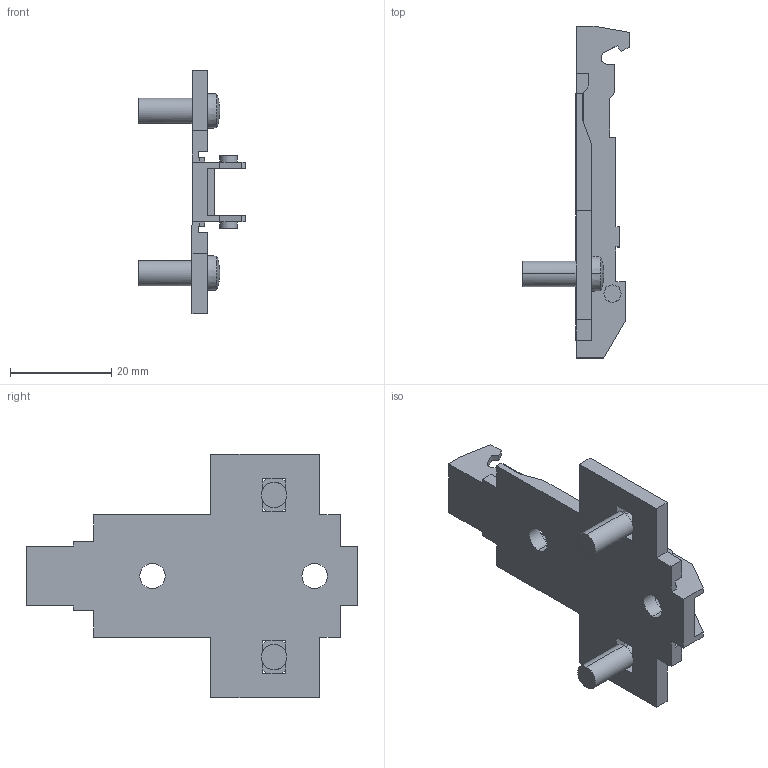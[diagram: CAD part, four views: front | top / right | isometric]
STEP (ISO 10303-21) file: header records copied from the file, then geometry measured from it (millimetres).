
FILE_DESCRIPTION (( 'STEP AP214' ), '1' );
FILE_NAME ('1D_Kreuzmontageplatte 28_32_5mm_Dübel_lang_0.step', '2010-11-18T10:20:38', ( 'grass' ), ( '' ), 'SwSTEP 2.0', 'SolidWorks 2010', '' );
FILE_SCHEMA (( 'AUTOMOTIVE_DESIGN' ));
Length unit declared in the file: millimetre
Products named in the file (1): 1D_Kreuzmontageplatte 28_32_5mm_Dübel_lang_0
Bounding box: 21 x 65.5 x 48 mm (x, y, z)
Volume: 6609.3 mm3; surface area: 6749.5 mm2
Topology: 1 solids, 1 shells, 126 faces, 388 edges, 250 vertices
Faces by surface type: plane 96, cylinder 22, sphere 4, cone 4
Entity records: 4374 total; most frequent: ORIENTED_EDGE 776, CARTESIAN_POINT 765, DIRECTION 722, EDGE_CURVE 388, LINE 308, VECTOR 308, VERTEX_POINT 250, AXIS2_PLACEMENT_3D 207
